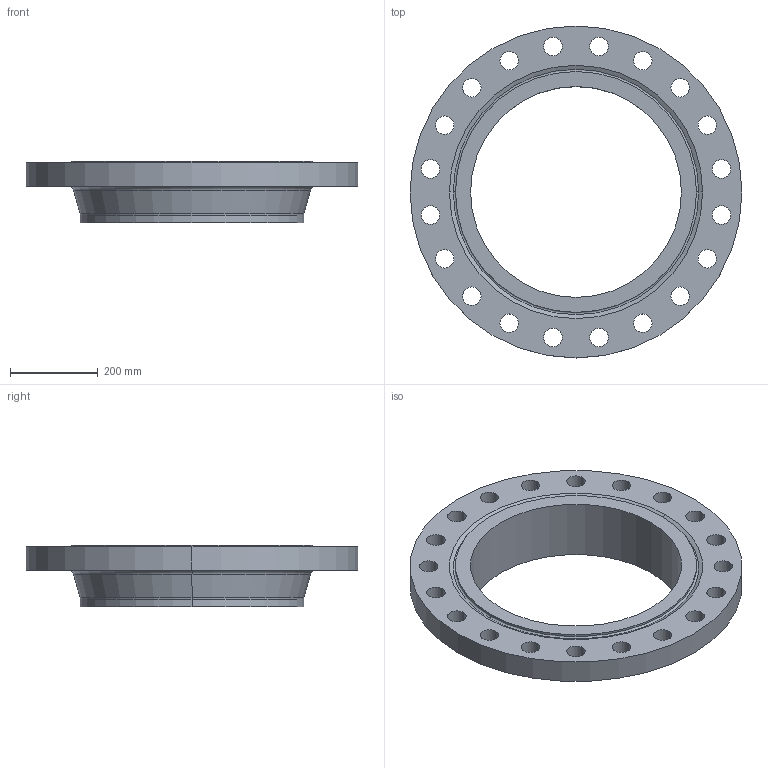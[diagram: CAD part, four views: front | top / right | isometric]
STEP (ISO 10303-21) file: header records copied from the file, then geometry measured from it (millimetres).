
FILE_DESCRIPTION (( 'STEP AP214' ), '1' );
FILE_NAME ('PN40 DN500 Type 11 - Type H Face.STEP', '2018-12-29T04:28:05', ( '' ), ( '' ), 'SwSTEP 2.0', 'SolidWorks 2019', '' );
FILE_SCHEMA (( 'AUTOMOTIVE_DESIGN' ));
Length unit declared in the file: millimetre
Products named in the file (1): PN40 DN500 Type 11 - Type H Face
Bounding box: 755 x 755 x 140 mm (x, y, z)
Volume: 15812050.2 mm3; surface area: 1079550.8 mm2
Topology: 1 solids, 1 shells, 62 faces, 164 edges, 106 vertices
Faces by surface type: cylinder 48, torus 6, cone 4, plane 4
Entity records: 2098 total; most frequent: DIRECTION 402, CARTESIAN_POINT 333, ORIENTED_EDGE 328, AXIS2_PLACEMENT_3D 175, EDGE_CURVE 164, CIRCLE 112, VERTEX_POINT 106, EDGE_LOOP 106
